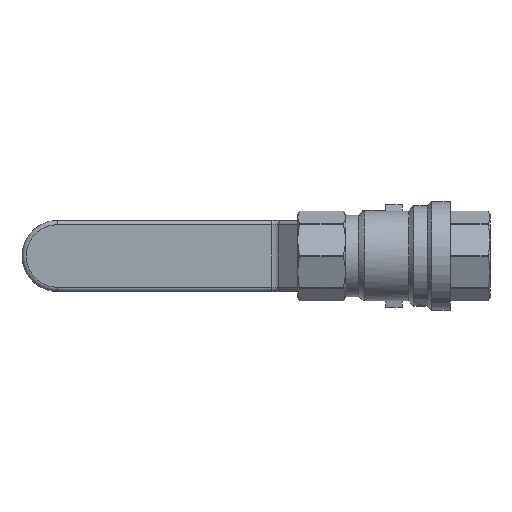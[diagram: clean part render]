
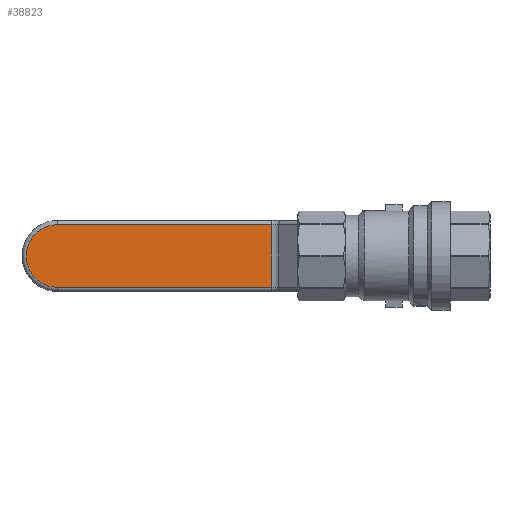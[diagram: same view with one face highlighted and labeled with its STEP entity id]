
A CAD part, front view. The second image highlights one B-rep face of the part: STEP entity #38823.
In plain terms, the highlighted planar face has unit normal (0, -1, 0).
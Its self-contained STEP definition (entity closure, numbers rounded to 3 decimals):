
#38755=CARTESIAN_POINT('',(-29.177,36.4,-7.5));
#38756=VERTEX_POINT('',#38755);
#38757=CARTESIAN_POINT('',(-29.177,36.4,7.5));
#38758=VERTEX_POINT('',#38757);
#38759=CARTESIAN_POINT('',(-29.177,36.4,-7.5));
#38760=DIRECTION('',(0.0,0.0,1.0));
#38761=VECTOR('',#38760,15.0);
#38762=LINE('',#38759,#38761);
#38763=EDGE_CURVE('',#38756,#38758,#38762,.T.);
#38792=CARTESIAN_POINT('',(-26.993,36.4,-23.5));
#38793=DIRECTION('',(0.0,1.0,0.0));
#38794=DIRECTION('',(0.0,0.0,-1.0));
#38795=AXIS2_PLACEMENT_3D('',#38792,#38793,#38794);
#38796=PLANE('',#38795);
#38797=ORIENTED_EDGE('',*,*,#38763,.T.);
#38798=CARTESIAN_POINT('',(-80.5,36.4,7.5));
#38799=VERTEX_POINT('',#38798);
#38800=CARTESIAN_POINT('',(-29.177,36.4,7.5));
#38801=DIRECTION('',(-1.0,0.0,0.0));
#38802=VECTOR('',#38801,51.323);
#38803=LINE('',#38800,#38802);
#38804=EDGE_CURVE('',#38758,#38799,#38803,.T.);
#38805=ORIENTED_EDGE('',*,*,#38804,.T.);
#38806=CARTESIAN_POINT('',(-80.5,36.4,-7.5));
#38807=VERTEX_POINT('',#38806);
#38808=CARTESIAN_POINT('',(-80.5,36.4,0.));
#38809=DIRECTION('',(0.0,-1.0,0.0));
#38810=DIRECTION('',(0.0,0.0,1.0));
#38811=AXIS2_PLACEMENT_3D('',#38808,#38809,#38810);
#38812=CIRCLE('',#38811,7.5);
#38813=EDGE_CURVE('',#38799,#38807,#38812,.T.);
#38814=ORIENTED_EDGE('',*,*,#38813,.T.);
#38815=CARTESIAN_POINT('',(-80.5,36.4,-7.5));
#38816=DIRECTION('',(1.0,0.0,0.0));
#38817=VECTOR('',#38816,51.323);
#38818=LINE('',#38815,#38817);
#38819=EDGE_CURVE('',#38807,#38756,#38818,.T.);
#38820=ORIENTED_EDGE('',*,*,#38819,.T.);
#38821=EDGE_LOOP('',(#38797,#38805,#38814,#38820));
#38822=FACE_OUTER_BOUND('',#38821,.T.);
#38823=ADVANCED_FACE('',(#38822),#38796,.F.);
